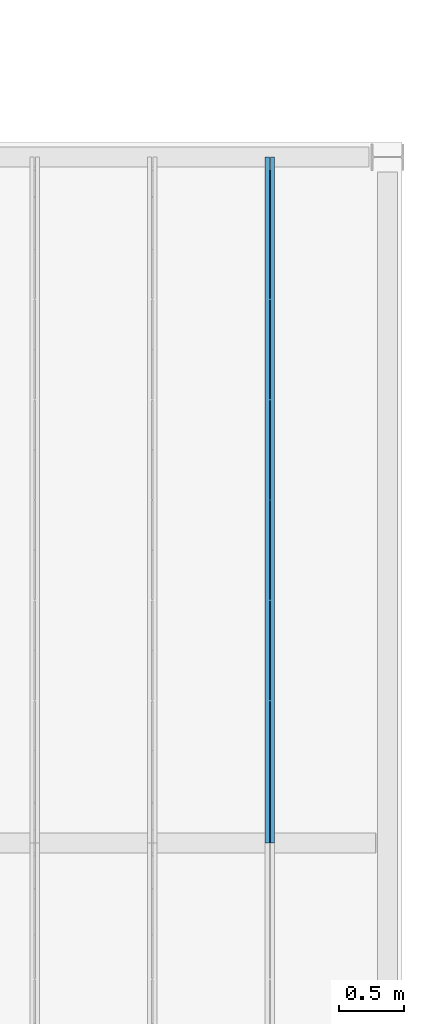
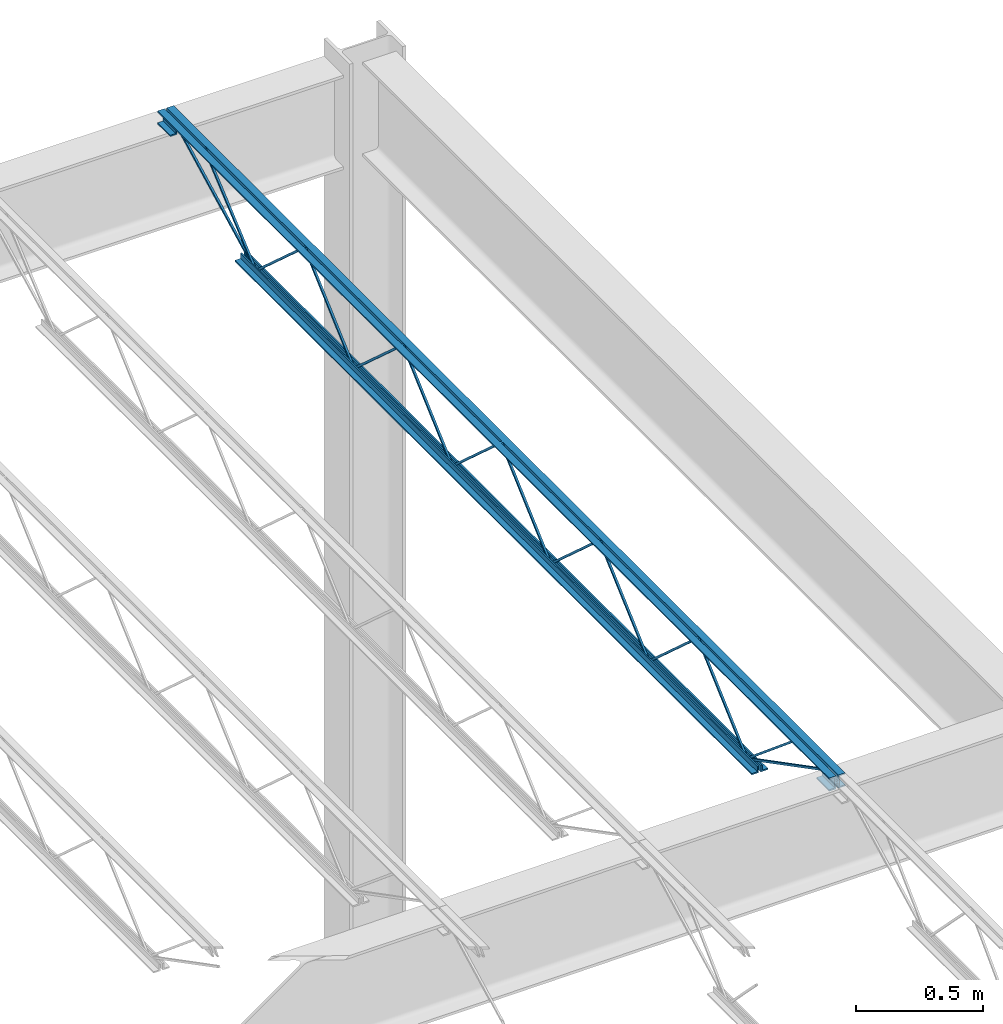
# One storey, part 119 of 119: 1 beam.
"""IFC2X3 building model written with IfcOpenShell, lengths in metres."""

from ifc_helpers import new_model, entity, si_unit, converted_unit, frame, origin, place, context, project, spatial, face_set, surface_model, element, save


model = new_model("IFC2X3")

# Units and contexts
model_context = context("Model", 3, precision=1e-09, world=origin())
plan_context = context("Plan", 3, precision=1e-09, world=origin())
ifc_project = project(units=[si_unit("LENGTHUNIT", "METRE"), si_unit("AREAUNIT", "SQUARE_METRE"), si_unit("VOLUMEUNIT", "CUBIC_METRE"), converted_unit("PLANEANGLEUNIT", "DEGREE", entity("IfcRatioMeasure", 0.01745329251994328), si_unit("PLANEANGLEUNIT", "RADIAN"), dimensions=[0, 0, 0, 0, 0, 0, 0]), si_unit("TIMEUNIT", "SECOND")], contexts=[model_context, plan_context])

# Site, building, storey
site_placement = place(None, origin())
site = spatial("IfcSite", under=ifc_project, at=site_placement, Name="Default", CompositionType="ELEMENT")
building_placement = place(site_placement, origin())
building = spatial("IfcBuilding", under=site, at=building_placement, CompositionType="ELEMENT")
storey_placement = place(building_placement, frame((0.0, 0.0, 4.570000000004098)))
storey = spatial("IfcBuildingStorey", under=building, at=storey_placement, Name="Second Floor", CompositionType="ELEMENT", Elevation=4.570000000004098)

# Beam
beam_placement = place(storey_placement, frame((-0.9467500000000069, 44.78049999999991, 4.323999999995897)))
element("IfcBeam", 1, at=beam_placement, inside=storey, Name="M_K-Series Bar Joist-Rod Web:14K1:14K1", ObjectType="M_K-Series Bar Joist-Rod Web:14K1", context=model_context, shape_type="SurfaceModel", body=[
    surface_model("IfcFaceBasedSurfaceModel", [(0.04150000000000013, 3.042999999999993, 0.01110000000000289), (0.03200000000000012, 3.042999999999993, 0.01110000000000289), (0.03200000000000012, 3.042999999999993, 0.001600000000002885), (0.04150000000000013, 3.042999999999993, 0.001600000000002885), (0.03200000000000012, 3.044354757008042, 0.01110000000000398), (0.04150000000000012, 3.044354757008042, 0.01110000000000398), (0.03200000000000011, 3.047995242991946, 0.001600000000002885), (0.03200000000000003, 3.430145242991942, 0.3449000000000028), (0.03200000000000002, 3.432854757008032, 0.3449000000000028), (0.03200000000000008, 3.815004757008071, 0.001600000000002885), (0.03200000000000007, 3.819999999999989, 0.001600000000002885), (0.03200000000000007, 3.819999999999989, 0.01110000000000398), (0.03200000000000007, 3.818645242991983, 0.01110000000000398), (0.03200000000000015, 3.436495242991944, 0.3544000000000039), (0.03200000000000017, 3.426504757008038, 0.3544000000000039), (0.04150000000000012, 3.047995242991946, 0.001600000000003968), (0.04150000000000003, 3.43014524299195, 0.3449000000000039), (0.04150000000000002, 3.432854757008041, 0.3449000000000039), (0.04149999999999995, 3.815004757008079, 0.001600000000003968), (0.04149999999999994, 3.819999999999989, 0.001600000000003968), (0.04150000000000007, 3.819999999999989, 0.01110000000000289), (0.04150000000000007, 3.818645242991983, 0.01110000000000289), (0.04150000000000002, 3.436495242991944, 0.3544000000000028), (0.04150000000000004, 3.426504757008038, 0.3544000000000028), (0.04150000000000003, 2.265999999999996, 0.01110000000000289), (0.03200000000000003, 2.265999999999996, 0.01110000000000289), (0.03200000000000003, 2.265999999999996, 0.001600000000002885), (0.04150000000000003, 2.265999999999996, 0.001600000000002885), (0.03200000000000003, 2.267354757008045, 0.01110000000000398), (0.04150000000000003, 2.267354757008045, 0.01110000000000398), (0.03200000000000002, 2.270995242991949, 0.001600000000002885), (0.03200000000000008, 2.653145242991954, 0.3449000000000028), (0.03200000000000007, 2.655854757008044, 0.3449000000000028), (0.03200000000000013, 3.038004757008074, 0.001600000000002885), (0.03199999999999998, 3.042999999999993, 0.01110000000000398), (0.03199999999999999, 3.041645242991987, 0.01110000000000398), (0.03200000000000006, 2.659495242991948, 0.3544000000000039), (0.03200000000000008, 2.649504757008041, 0.3544000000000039), (0.04150000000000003, 2.270995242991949, 0.001600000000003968), (0.04149999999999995, 2.653145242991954, 0.3449000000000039), (0.04149999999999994, 2.655854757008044, 0.3449000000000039), (0.04149999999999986, 3.038004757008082, 0.001600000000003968), (0.04149999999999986, 3.042999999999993, 0.001600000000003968), (0.04150000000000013, 3.041645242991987, 0.01110000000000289), (0.04150000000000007, 2.659495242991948, 0.3544000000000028), (0.04150000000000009, 2.649504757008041, 0.3544000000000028), (0.04150000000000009, 1.488999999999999, 0.01110000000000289), (0.03200000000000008, 1.488999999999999, 0.01110000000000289), (0.03200000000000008, 1.488999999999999, 0.001600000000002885), (0.04150000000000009, 1.488999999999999, 0.001600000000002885), (0.03200000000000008, 1.490354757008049, 0.01110000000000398), (0.04150000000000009, 1.490354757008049, 0.01110000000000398), (0.03200000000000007, 1.493995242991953, 0.001600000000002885), (0.03200000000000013, 1.876145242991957, 0.3449000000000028), (0.03200000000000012, 1.878854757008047, 0.3449000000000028), (0.03200000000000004, 2.261004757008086, 0.001600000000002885), (0.03200000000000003, 2.266000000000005, 0.001600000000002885), (0.03200000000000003, 2.265999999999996, 0.01110000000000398), (0.03200000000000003, 2.26464524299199, 0.01110000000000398), (0.03200000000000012, 1.882495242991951, 0.3544000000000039), (0.03200000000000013, 1.872504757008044, 0.3544000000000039), (0.04150000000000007, 1.493995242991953, 0.001600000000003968), (0.0415, 1.876145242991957, 0.3449000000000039), (0.04149999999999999, 1.878854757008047, 0.3449000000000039), (0.04149999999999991, 2.261004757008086, 0.001600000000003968), (0.0414999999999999, 2.265999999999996, 0.001600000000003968), (0.04150000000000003, 2.266000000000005, 0.01110000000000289), (0.04150000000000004, 2.26464524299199, 0.01110000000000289), (0.04150000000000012, 1.88249524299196, 0.3544000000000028), (0.04150000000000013, 1.872504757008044, 0.3544000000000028), (0.04149999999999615, 3.819999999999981, 0.01109999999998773), (0.03199999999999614, 3.819999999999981, 0.01109999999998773), (0.03199999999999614, 3.819999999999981, 0.001599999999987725), (0.04149999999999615, 3.819999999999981, 0.001599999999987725), (0.03199999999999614, 3.82135475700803, 0.01109999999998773), (0.04149999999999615, 3.82135475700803, 0.01109999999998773), (0.03199999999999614, 3.824995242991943, 0.001599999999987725), (0.03199999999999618, 4.207145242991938, 0.3448999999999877), (0.03199999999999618, 4.209854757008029, 0.3448999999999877), (0.0319999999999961, 4.592004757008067, 0.001599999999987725), (0.03199999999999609, 4.596999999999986, 0.001599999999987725), (0.03199999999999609, 4.596999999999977, 0.01109999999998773), (0.03199999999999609, 4.595645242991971, 0.01109999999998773), (0.03199999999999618, 4.213495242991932, 0.3543999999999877), (0.03199999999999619, 4.203504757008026, 0.3543999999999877), (0.04149999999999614, 3.824995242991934, 0.001599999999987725), (0.04149999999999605, 4.207145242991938, 0.3448999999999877), (0.04149999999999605, 4.209854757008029, 0.3448999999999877), (0.04149999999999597, 4.592004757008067, 0.001599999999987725), (0.04149999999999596, 4.596999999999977, 0.001599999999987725), (0.0414999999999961, 4.596999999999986, 0.01109999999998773), (0.0414999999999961, 4.59564524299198, 0.01109999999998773), (0.04149999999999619, 4.213495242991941, 0.3543999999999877), (0.0414999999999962, 4.203504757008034, 0.3543999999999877), (0.04150000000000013, 0.7120000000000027, 0.01110000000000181), (0.03200000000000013, 0.7120000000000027, 0.01110000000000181), (0.03200000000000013, 0.7120000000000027, 0.001600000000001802), (0.04150000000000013, 0.7120000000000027, 0.001600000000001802), (0.03200000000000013, 0.7133547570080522, 0.01110000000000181), (0.04150000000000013, 0.7133547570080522, 0.01110000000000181), (0.03200000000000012, 0.7169952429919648, 0.001600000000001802), (0.03200000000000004, 1.09914524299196, 0.3449000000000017), (0.03200000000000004, 1.101854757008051, 0.3449000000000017), (0.03200000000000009, 1.484004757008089, 0.001600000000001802), (0.03200000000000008, 1.489000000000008, 0.001600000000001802), (0.03200000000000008, 1.488999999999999, 0.01110000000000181), (0.03200000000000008, 1.487645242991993, 0.01110000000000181), (0.03200000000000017, 1.105495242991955, 0.3544000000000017), (0.03200000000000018, 1.095504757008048, 0.3544000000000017), (0.04150000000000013, 0.7169952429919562, 0.001600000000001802), (0.04150000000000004, 1.09914524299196, 0.3449000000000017), (0.04150000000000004, 1.101854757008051, 0.3449000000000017), (0.04149999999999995, 1.484004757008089, 0.001600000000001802), (0.04149999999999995, 1.488999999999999, 0.001600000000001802), (0.04150000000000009, 1.489000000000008, 0.01110000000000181), (0.04150000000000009, 1.487645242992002, 0.01110000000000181), (0.04150000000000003, 1.105495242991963, 0.3544000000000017), (0.04150000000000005, 1.095504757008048, 0.3544000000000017), (0.03200000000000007, 5.309000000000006, 0.3559999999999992), (0.0, 5.309000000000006, 0.3559999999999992), (0.0, 5.309000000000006, 0.3494999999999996), (0.02549999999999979, 5.309000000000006, 0.3494999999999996), (0.02549999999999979, 5.309000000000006, 0.3239999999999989), (0.03200000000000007, 5.309000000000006, 0.3239999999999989), (0.04149999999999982, 5.309000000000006, 0.3559999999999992), (0.04149999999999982, 5.309000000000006, 0.3239999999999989), (0.04799999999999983, 5.309000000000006, 0.3239999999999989), (0.04799999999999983, 5.309000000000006, 0.3494999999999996), (0.07350000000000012, 5.309000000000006, 0.3494999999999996), (0.07350000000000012, 5.309000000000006, 0.3559999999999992), (0.03200000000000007, 0.0, 0.3559999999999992), (0.0, 0.0, 0.3559999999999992), (0.0, 0.0, 0.3494999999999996), (0.02549999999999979, 0.0, 0.3494999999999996), (0.02549999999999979, 0.0, 0.3239999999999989), (0.03200000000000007, 0.0, 0.3239999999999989), (0.0414999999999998, 0.0, 0.3559999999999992), (0.0414999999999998, 0.0, 0.3239999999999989), (0.04799999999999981, 0.0, 0.3239999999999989), (0.04799999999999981, 0.0, 0.3494999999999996), (0.0735000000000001, 0.0, 0.3494999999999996), (0.0735000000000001, 0.0, 0.3559999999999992), (0.04149999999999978, 0.09999999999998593, 0.2924999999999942), (0.07350000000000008, 0.09999999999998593, 0.2924999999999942), (0.07350000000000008, 0.09999999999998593, 0.2989999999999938), (0.04799999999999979, 0.09999999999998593, 0.2989999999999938), (0.04799999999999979, 0.09999999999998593, 0.3239999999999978), (0.04149999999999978, 0.09999999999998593, 0.3239999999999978), (0.0, 0.09999999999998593, 0.2924999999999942), (0.03199999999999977, 0.09999999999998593, 0.2924999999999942), (0.03199999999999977, 0.09999999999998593, 0.3239999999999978), (0.02549999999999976, 0.09999999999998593, 0.3239999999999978), (0.02549999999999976, 0.09999999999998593, 0.2989999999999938), (0.0, 0.09999999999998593, 0.2989999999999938), (0.0414999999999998, 0.0, 0.2924999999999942), (0.0735000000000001, 0.0, 0.2924999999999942), (0.0735000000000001, 0.0, 0.2989999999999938), (0.04799999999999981, 0.0, 0.2989999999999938), (0.04799999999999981, 0.0, 0.3239999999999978), (0.0414999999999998, 0.0, 0.3239999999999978), (0.0, 0.0, 0.2924999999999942), (0.0319999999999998, 0.0, 0.2924999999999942), (0.0319999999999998, 0.0, 0.3239999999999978), (0.02549999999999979, 0.0, 0.3239999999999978), (0.02549999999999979, 0.0, 0.2989999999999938), (0.0, 0.0, 0.2989999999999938), (0.0319999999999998, 5.309000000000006, 0.2924999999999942), (0.0319999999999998, 5.309000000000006, 0.3239999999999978), (0.02549999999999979, 5.309000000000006, 0.3239999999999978), (0.02549999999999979, 5.309000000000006, 0.2989999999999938), (0.0, 5.309000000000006, 0.2989999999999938), (0.0, 5.309000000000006, 0.2924999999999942), (0.04149999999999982, 5.309000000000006, 0.2924999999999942), (0.07349999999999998, 5.309000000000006, 0.2924999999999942), (0.07349999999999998, 5.309000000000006, 0.2989999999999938), (0.04799999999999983, 5.309000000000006, 0.2989999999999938), (0.04799999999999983, 5.309000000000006, 0.3239999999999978), (0.04149999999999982, 5.309000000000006, 0.3239999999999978), (0.03199999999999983, 5.209000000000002, 0.2924999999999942), (0.03199999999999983, 5.209000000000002, 0.3239999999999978), (0.02549999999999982, 5.209000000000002, 0.3239999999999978), (0.02549999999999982, 5.209000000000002, 0.2989999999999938), (0.0, 5.209000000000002, 0.2989999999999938), (0.0, 5.209000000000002, 0.2924999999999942), (0.04149999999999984, 5.209000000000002, 0.2924999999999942), (0.07350000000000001, 5.209000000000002, 0.2924999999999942), (0.07350000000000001, 5.209000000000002, 0.2989999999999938), (0.04799999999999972, 5.209000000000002, 0.2989999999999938), (0.04799999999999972, 5.209000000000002, 0.3239999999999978), (0.04149999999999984, 5.209000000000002, 0.3239999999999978), (0.03199999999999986, 4.697000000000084, 0.0), (0.03199999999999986, 4.697000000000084, 0.03199999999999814), (0.02549999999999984, 4.697000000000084, 0.03199999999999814), (0.02549999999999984, 4.697000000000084, 0.006499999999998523), (0.0, 4.697000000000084, 0.006499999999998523), (0.0, 4.697000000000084, 0.0), (0.04149999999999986, 4.697000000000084, 0.0), (0.07350000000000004, 4.697000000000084, 0.0), (0.07350000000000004, 4.697000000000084, 0.006499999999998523), (0.04799999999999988, 4.697000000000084, 0.006499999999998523), (0.04799999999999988, 4.697000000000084, 0.03199999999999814), (0.04149999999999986, 4.697000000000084, 0.03199999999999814), (0.03199999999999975, 0.6120000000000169, 0.0), (0.03199999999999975, 0.6120000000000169, 0.03199999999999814), (0.02549999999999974, 0.6120000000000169, 0.03199999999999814), (0.02549999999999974, 0.6120000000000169, 0.006499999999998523), (0.0, 0.6120000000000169, 0.006499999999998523), (0.0, 0.6120000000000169, 0.0), (0.04149999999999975, 0.6120000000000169, 0.0), (0.07349999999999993, 0.6120000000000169, 0.0), (0.07349999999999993, 0.6120000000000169, 0.006499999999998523), (0.04799999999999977, 0.6120000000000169, 0.006499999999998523), (0.04799999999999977, 0.6120000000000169, 0.03199999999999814), (0.04149999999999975, 0.6120000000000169, 0.03199999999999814), (0.04150000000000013, 0.7141882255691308, 0.01056594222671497), (0.03200000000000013, 0.7141882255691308, 0.01056594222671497), (0.03200000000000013, 0.709811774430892, 0.00213405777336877), (0.04150000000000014, 0.709811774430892, 0.00213405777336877), (0.04150000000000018, 0.1011592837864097, 0.3287499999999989), (0.04150000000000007, 0.0, 0.3287499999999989), (0.04150000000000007, 0.0, 0.3192499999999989), (0.04150000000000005, 0.09884071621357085, 0.3192499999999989), (0.03200000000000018, 0.09884071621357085, 0.3192499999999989), (0.03200000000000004, 0.1011592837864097, 0.3287499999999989), (0.03200000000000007, 0.0, 0.3287499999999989), (0.03200000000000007, 0.0, 0.3192499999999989), (0.04150000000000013, 0.3035428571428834, 0.3417000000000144), (0.03200000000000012, 0.3035428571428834, 0.3417000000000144), (0.03200000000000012, 0.3035428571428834, 0.3322000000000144), (0.04150000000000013, 0.3035428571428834, 0.3322000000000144), (0.03200000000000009, 0.3179658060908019, 0.3417000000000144), (0.0415000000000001, 0.3179658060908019, 0.3417000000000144), (0.03200000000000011, 0.3145199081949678, 0.3322000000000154), (0.03200000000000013, 0.7089547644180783, 0.002704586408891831), (0.03200000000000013, 0.7150452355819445, 0.009995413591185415), (0.04150000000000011, 0.3145199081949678, 0.3322000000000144), (0.04150000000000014, 0.7089547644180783, 0.002704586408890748), (0.04150000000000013, 0.7150452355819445, 0.009995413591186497), (0.04150000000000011, 5.211188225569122, 0.3197840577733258), (0.04150000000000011, 5.206811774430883, 0.328215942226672), (0.03200000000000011, 5.206811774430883, 0.328215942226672), (0.0320000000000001, 5.211188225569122, 0.3197840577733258), (0.04150000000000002, 4.599188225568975, 0.002134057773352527), (0.04150000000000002, 4.594811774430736, 0.01056594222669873), (0.03200000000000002, 4.594811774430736, 0.01056594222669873), (0.03200000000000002, 4.599188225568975, 0.002134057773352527), (0.04150000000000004, 5.00309445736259, 0.3460340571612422), (0.04150000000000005, 4.996934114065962, 0.35326594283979), (0.03200000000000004, 4.996934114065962, 0.3532659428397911), (0.03200000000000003, 5.00309445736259, 0.3460340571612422), (0.04150000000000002, 4.600080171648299, 0.002734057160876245), (0.04150000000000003, 4.593919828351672, 0.00996594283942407), (0.03200000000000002, 4.593919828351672, 0.00996594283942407), (0.03200000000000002, 4.600080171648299, 0.002734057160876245)], [face_set([[[0, 1, 2, 3]], [[1, 4, 5, 0]], [[2, 6, 7, 8, 9, 10, 11, 12, 13, 14, 4, 1]], [[3, 2, 6, 15]], [[0, 3, 15, 16, 17, 18, 19, 20, 21, 22, 23, 5]], [[4, 5, 23, 14]], [[15, 16, 7, 6]], [[14, 13, 22, 23]], [[16, 7, 8, 17]], [[13, 12, 21, 22]], [[17, 8, 9, 18]], [[20, 11, 10, 19]], [[12, 11, 20, 21]], [[18, 9, 10, 19]]]), face_set([[[24, 25, 26, 27]], [[25, 28, 29, 24]], [[26, 30, 31, 32, 33, 2, 34, 35, 36, 37, 28, 25]], [[27, 26, 30, 38]], [[24, 27, 38, 39, 40, 41, 42, 0, 43, 44, 45, 29]], [[28, 29, 45, 37]], [[38, 39, 31, 30]], [[37, 36, 44, 45]], [[39, 31, 32, 40]], [[36, 35, 43, 44]], [[40, 32, 33, 41]], [[0, 34, 2, 42]], [[35, 34, 0, 43]], [[41, 33, 2, 42]]]), face_set([[[46, 47, 48, 49]], [[47, 50, 51, 46]], [[48, 52, 53, 54, 55, 56, 57, 58, 59, 60, 50, 47]], [[49, 48, 52, 61]], [[46, 49, 61, 62, 63, 64, 65, 66, 67, 68, 69, 51]], [[50, 51, 69, 60]], [[61, 62, 53, 52]], [[60, 59, 68, 69]], [[62, 53, 54, 63]], [[59, 58, 67, 68]], [[63, 54, 55, 64]], [[66, 57, 56, 65]], [[58, 57, 66, 67]], [[64, 55, 56, 65]]]), face_set([[[70, 71, 72, 73]], [[71, 74, 75, 70]], [[72, 76, 77, 78, 79, 80, 81, 82, 83, 84, 74, 71]], [[73, 72, 76, 85]], [[70, 73, 85, 86, 87, 88, 89, 90, 91, 92, 93, 75]], [[74, 75, 93, 84]], [[85, 86, 77, 76]], [[84, 83, 92, 93]], [[86, 77, 78, 87]], [[83, 82, 91, 92]], [[87, 78, 79, 88]], [[90, 81, 80, 89]], [[82, 81, 90, 91]], [[88, 79, 80, 89]]]), face_set([[[94, 95, 96, 97]], [[95, 98, 99, 94]], [[96, 100, 101, 102, 103, 104, 105, 106, 107, 108, 98, 95]], [[97, 96, 100, 109]], [[94, 97, 109, 110, 111, 112, 113, 114, 115, 116, 117, 99]], [[98, 99, 117, 108]], [[109, 110, 101, 100]], [[108, 107, 116, 117]], [[110, 101, 102, 111]], [[107, 106, 115, 116]], [[111, 102, 103, 112]], [[114, 105, 104, 113]], [[106, 105, 114, 115]], [[112, 103, 104, 113]]]), face_set([[[118, 119, 120, 121, 122, 123]], [[124, 125, 126, 127, 128, 129]], [[130, 131, 132, 133, 134, 135]], [[136, 137, 138, 139, 140, 141]], [[123, 118, 130, 135]], [[122, 123, 135, 134]], [[121, 133, 134, 122]], [[120, 121, 133, 132]], [[119, 131, 132, 120]], [[118, 130, 131, 119]], [[129, 141, 136, 124]], [[128, 129, 141, 140]], [[127, 128, 140, 139]], [[126, 127, 139, 138]], [[125, 126, 138, 137]], [[124, 136, 137, 125]]]), face_set([[[142, 143, 144, 145, 146, 147]], [[148, 149, 150, 151, 152, 153]], [[154, 155, 156, 157, 158, 159]], [[160, 161, 162, 163, 164, 165]], [[147, 159, 154, 142]], [[146, 158, 159, 147]], [[145, 146, 158, 157]], [[144, 156, 157, 145]], [[143, 144, 156, 155]], [[142, 143, 155, 154]], [[153, 165, 160, 148]], [[152, 164, 165, 153]], [[151, 163, 164, 152]], [[150, 162, 163, 151]], [[149, 150, 162, 161]], [[148, 149, 161, 160]]]), face_set([[[166, 167, 168, 169, 170, 171]], [[172, 173, 174, 175, 176, 177]], [[178, 179, 180, 181, 182, 183]], [[184, 185, 186, 187, 188, 189]], [[171, 166, 178, 183]], [[170, 182, 183, 171]], [[169, 181, 182, 170]], [[168, 180, 181, 169]], [[167, 179, 180, 168]], [[166, 167, 179, 178]], [[177, 189, 184, 172]], [[176, 188, 189, 177]], [[175, 176, 188, 187]], [[174, 186, 187, 175]], [[173, 174, 186, 185]], [[172, 173, 185, 184]]]), face_set([[[190, 191, 192, 193, 194, 195]], [[196, 197, 198, 199, 200, 201]], [[202, 203, 204, 205, 206, 207]], [[208, 209, 210, 211, 212, 213]], [[195, 190, 202, 207]], [[194, 206, 207, 195]], [[193, 205, 206, 194]], [[192, 204, 205, 193]], [[191, 203, 204, 192]], [[190, 191, 203, 202]], [[201, 213, 208, 196]], [[200, 212, 213, 201]], [[199, 200, 212, 211]], [[198, 210, 211, 199]], [[197, 198, 210, 209]], [[196, 197, 209, 208]]]), face_set([[[214, 215, 216, 217]], [[217, 214, 218, 219, 220, 221]], [[216, 217, 221, 222]], [[215, 223, 224, 225, 222, 216]], [[214, 218, 223, 215]], [[219, 224, 225, 220]], [[222, 221, 220, 225]], [[218, 219, 224, 223]]]), face_set([[[226, 227, 228, 229]], [[227, 230, 231, 226]], [[228, 232, 233, 234, 230, 227]], [[229, 228, 232, 235]], [[226, 229, 235, 236, 237, 231]], [[237, 234, 233, 236]], [[230, 234, 237, 231]], [[235, 232, 233, 236]]]), face_set([[[238, 239, 240, 241]], [[242, 243, 244, 245]], [[241, 245, 242, 238]], [[240, 244, 245, 241]], [[239, 240, 244, 243]], [[238, 239, 243, 242]]]), face_set([[[246, 247, 248, 249]], [[250, 251, 252, 253]], [[249, 253, 250, 246]], [[248, 252, 253, 249]], [[247, 248, 252, 251]], [[246, 247, 251, 250]]])]),
])

save(model, "model.ifc")
